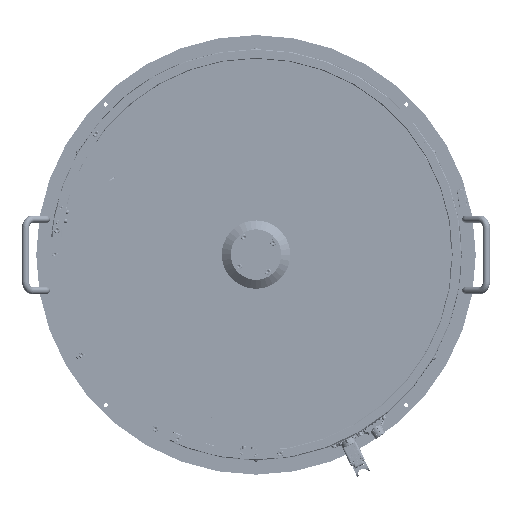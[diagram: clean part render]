
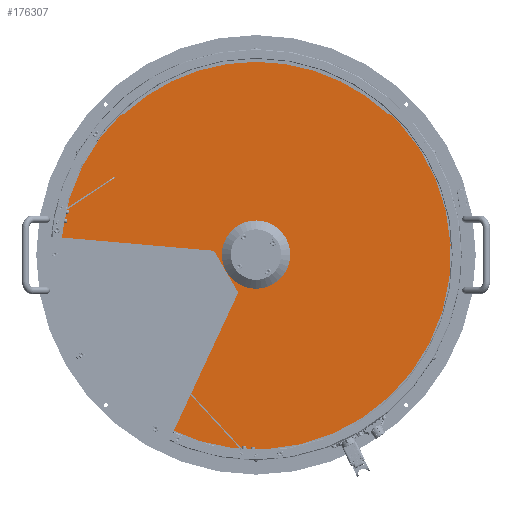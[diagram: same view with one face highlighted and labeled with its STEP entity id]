
A CAD part, top view. The second image highlights one B-rep face of the part: STEP entity #176307.
In plain terms, the highlighted planar face has unit normal (0, 0, 1) as drawn and (0, 0, -1) by its records, which use the part's own axes.
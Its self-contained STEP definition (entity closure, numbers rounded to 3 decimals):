
#17465 = CARTESIAN_POINT ( 'NONE',  ( 0., 0., 0. ) ) ;
#41726 = ORIENTED_EDGE ( 'NONE', *, *, #440299, .F. ) ;
#48633 = DIRECTION ( 'NONE',  ( 0., 0., 1. ) ) ;
#70056 = CIRCLE ( 'NONE', #359737, 328. ) ;
#73466 = CARTESIAN_POINT ( 'NONE',  ( 0., 0., 0. ) ) ;
#74276 = DIRECTION ( 'NONE',  ( 1., 0., 0. ) ) ;
#80041 = ORIENTED_EDGE ( 'NONE', *, *, #296527, .F. ) ;
#89453 = VERTEX_POINT ( 'NONE', #216485 ) ;
#92254 = DIRECTION ( 'NONE',  ( 1., 0., 0. ) ) ;
#126066 = CARTESIAN_POINT ( 'NONE',  ( 0., 0., 0. ) ) ;
#131233 = DIRECTION ( 'NONE',  ( 0., 0., 1. ) ) ;
#143575 = AXIS2_PLACEMENT_3D ( 'NONE', #271177, #429077, #74276 ) ;
#150639 = CARTESIAN_POINT ( 'NONE',  ( 42.6, 0., 0. ) ) ;
#169944 = FACE_OUTER_BOUND ( 'NONE', #259705, .T. ) ;
#172971 = DIRECTION ( 'NONE',  ( 1., 0., 0. ) ) ;
#176307 = ADVANCED_FACE ( 'NONE', ( #169944, #413340 ), #485928, .F. ) ;
#196546 = AXIS2_PLACEMENT_3D ( 'NONE', #126066, #131233, #92254 ) ;
#216485 = CARTESIAN_POINT ( 'NONE',  ( -42.6, 0., 0. ) ) ;
#217699 = ORIENTED_EDGE ( 'NONE', *, *, #498577, .T. ) ;
#221787 = CARTESIAN_POINT ( 'NONE',  ( -328., 0., 0. ) ) ;
#250724 = CARTESIAN_POINT ( 'NONE',  ( 0., 0., 0. ) ) ;
#256406 = EDGE_CURVE ( 'NONE', #89453, #265550, #366941, .T. ) ;
#259705 = EDGE_LOOP ( 'NONE', ( #41726, #80041 ) ) ;
#265550 = VERTEX_POINT ( 'NONE', #150639 ) ;
#271177 = CARTESIAN_POINT ( 'NONE',  ( 0., 0., 0. ) ) ;
#277167 = VERTEX_POINT ( 'NONE', #221787 ) ;
#283091 = ORIENTED_EDGE ( 'NONE', *, *, #256406, .T. ) ;
#296527 = EDGE_CURVE ( 'NONE', #337156, #277167, #70056, .T. ) ;
#318488 = CARTESIAN_POINT ( 'NONE',  ( 328., 0., 0. ) ) ;
#324627 = DIRECTION ( 'NONE',  ( 1., 0., 0. ) ) ;
#337156 = VERTEX_POINT ( 'NONE', #318488 ) ;
#350348 = CIRCLE ( 'NONE', #474076, 42.6 ) ;
#353289 = DIRECTION ( 'NONE',  ( 0., 0., 1. ) ) ;
#359737 = AXIS2_PLACEMENT_3D ( 'NONE', #17465, #48633, #172971 ) ;
#366941 = CIRCLE ( 'NONE', #143575, 42.6 ) ;
#391779 = AXIS2_PLACEMENT_3D ( 'NONE', #73466, #353289, #324627 ) ;
#413340 = FACE_BOUND ( 'NONE', #474503, .T. ) ;
#413761 = DIRECTION ( 'NONE',  ( 0., 0., 1. ) ) ;
#429077 = DIRECTION ( 'NONE',  ( 0., 0., 1. ) ) ;
#440299 = EDGE_CURVE ( 'NONE', #277167, #337156, #507511, .T. ) ;
#474076 = AXIS2_PLACEMENT_3D ( 'NONE', #250724, #413761, #496538 ) ;
#474503 = EDGE_LOOP ( 'NONE', ( #283091, #217699 ) ) ;
#485928 = PLANE ( 'NONE',  #196546 ) ;
#496538 = DIRECTION ( 'NONE',  ( 1., 0., 0. ) ) ;
#498577 = EDGE_CURVE ( 'NONE', #265550, #89453, #350348, .T. ) ;
#507511 = CIRCLE ( 'NONE', #391779, 328. ) ;
